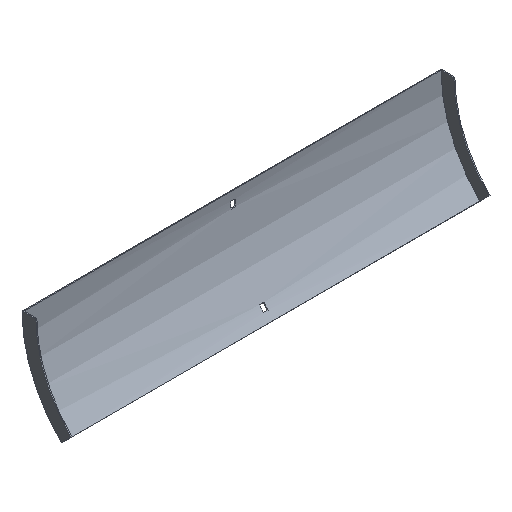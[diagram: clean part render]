
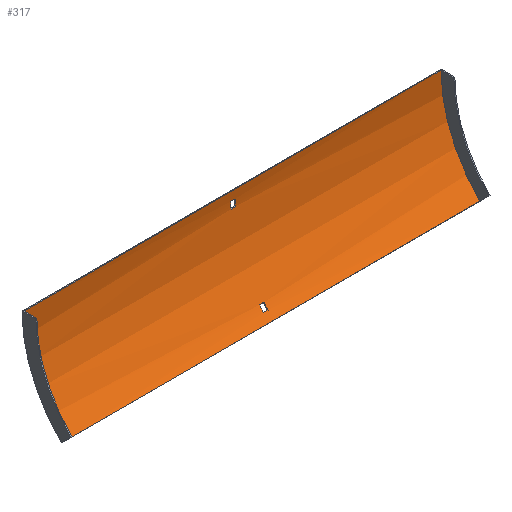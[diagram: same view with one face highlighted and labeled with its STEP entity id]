
A CAD part, isometric view. The second image highlights one B-rep face of the part: STEP entity #317.
In plain terms, the highlighted cylindrical face has radius 192.5 mm (diameter 385 mm), a partial arc.
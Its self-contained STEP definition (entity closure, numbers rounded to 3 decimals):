
#3 = CARTESIAN_POINT ( 'NONE',  ( 303.5, -43.845, -120.456 ) ) ;
#4 = ORIENTED_EDGE ( 'NONE', *, *, #168, .T. ) ;
#8 = CARTESIAN_POINT ( 'NONE',  ( 3.25, -2.649, -21. ) ) ;
#16 = EDGE_CURVE ( 'NONE', #231, #477, #505, .T. ) ;
#18 = DIRECTION ( 'NONE',  ( 1., 0., 0. ) ) ;
#24 = CARTESIAN_POINT ( 'NONE',  ( 303.5, -2.649, -21. ) ) ;
#25 = VECTOR ( 'NONE', #349, 1000. ) ;
#28 = CARTESIAN_POINT ( 'NONE',  ( -3.25, -49.661, -127.368 ) ) ;
#33 = AXIS2_PLACEMENT_3D ( 'NONE', #429, #439, #479 ) ;
#43 = EDGE_CURVE ( 'NONE', #564, #557, #187, .T. ) ;
#45 = EDGE_CURVE ( 'NONE', #332, #389, #525, .T. ) ;
#47 = DIRECTION ( 'NONE',  ( 0., 0., 1. ) ) ;
#70 = LINE ( 'NONE', #113, #25 ) ;
#75 = VECTOR ( 'NONE', #453, 1000. ) ;
#82 = AXIS2_PLACEMENT_3D ( 'NONE', #483, #533, #153 ) ;
#101 = DIRECTION ( 'NONE',  ( -1., 0., 0. ) ) ;
#108 = EDGE_CURVE ( 'NONE', #482, #175, #70, .T. ) ;
#113 = CARTESIAN_POINT ( 'NONE',  ( 303.5, -49.661, -127.368 ) ) ;
#114 = ORIENTED_EDGE ( 'NONE', *, *, #108, .T. ) ;
#128 = CARTESIAN_POINT ( 'NONE',  ( -3.25, -1.874, -12. ) ) ;
#142 = FACE_BOUND ( 'NONE', #362, .T. ) ;
#144 = CARTESIAN_POINT ( 'NONE',  ( 3.25, -194., 0. ) ) ;
#153 = DIRECTION ( 'NONE',  ( 0., 0., 1. ) ) ;
#159 = CARTESIAN_POINT ( 'NONE',  ( 302., -194., 0. ) ) ;
#166 = AXIS2_PLACEMENT_3D ( 'NONE', #421, #101, #230 ) ;
#168 = EDGE_CURVE ( 'NONE', #235, #372, #497, .T. ) ;
#171 = ORIENTED_EDGE ( 'NONE', *, *, #211, .T. ) ;
#175 = VERTEX_POINT ( 'NONE', #28 ) ;
#183 = VERTEX_POINT ( 'NONE', #256 ) ;
#186 = CARTESIAN_POINT ( 'NONE',  ( 303.5, -194., 0. ) ) ;
#187 = LINE ( 'NONE', #3, #213 ) ;
#200 = CARTESIAN_POINT ( 'NONE',  ( 302., -1.5, 0. ) ) ;
#211 = EDGE_CURVE ( 'NONE', #175, #564, #241, .T. ) ;
#213 = VECTOR ( 'NONE', #233, 1000. ) ;
#220 = AXIS2_PLACEMENT_3D ( 'NONE', #144, #330, #47 ) ;
#224 = CARTESIAN_POINT ( 'NONE',  ( 3.25, -1.874, -12. ) ) ;
#228 = ORIENTED_EDGE ( 'NONE', *, *, #514, .F. ) ;
#230 = DIRECTION ( 'NONE',  ( 0., 0., 1. ) ) ;
#231 = VERTEX_POINT ( 'NONE', #128 ) ;
#233 = DIRECTION ( 'NONE',  ( 1., 0., 0. ) ) ;
#235 = VERTEX_POINT ( 'NONE', #457 ) ;
#236 = DIRECTION ( 'NONE',  ( -1., 0., 0. ) ) ;
#241 = CIRCLE ( 'NONE', #415, 192.5 ) ;
#256 = CARTESIAN_POINT ( 'NONE',  ( 302., -57.882, -136.118 ) ) ;
#271 = ORIENTED_EDGE ( 'NONE', *, *, #43, .T. ) ;
#272 = CARTESIAN_POINT ( 'NONE',  ( -302., -1.5, 0. ) ) ;
#274 = LINE ( 'NONE', #472, #576 ) ;
#278 = VECTOR ( 'NONE', #586, 1000. ) ;
#286 = EDGE_LOOP ( 'NONE', ( #383, #485, #601, #228 ) ) ;
#298 = LINE ( 'NONE', #24, #547 ) ;
#317 = ADVANCED_FACE ( 'NONE', ( #319, #418, #142 ), #573, .F. ) ;
#319 = FACE_BOUND ( 'NONE', #286, .T. ) ;
#330 = DIRECTION ( 'NONE',  ( -1., 0., 0. ) ) ;
#331 = CIRCLE ( 'NONE', #82, 192.5 ) ;
#332 = VERTEX_POINT ( 'NONE', #8 ) ;
#343 = CARTESIAN_POINT ( 'NONE',  ( 3.25, -49.661, -127.368 ) ) ;
#348 = CARTESIAN_POINT ( 'NONE',  ( -3.25, -2.649, -21. ) ) ;
#349 = DIRECTION ( 'NONE',  ( -1., 0., 0. ) ) ;
#362 = EDGE_LOOP ( 'NONE', ( #114, #171, #271, #435 ) ) ;
#371 = DIRECTION ( 'NONE',  ( -1., 0., 0. ) ) ;
#372 = VERTEX_POINT ( 'NONE', #272 ) ;
#383 = ORIENTED_EDGE ( 'NONE', *, *, #16, .F. ) ;
#385 = CIRCLE ( 'NONE', #409, 192.5 ) ;
#387 = EDGE_CURVE ( 'NONE', #557, #482, #534, .T. ) ;
#389 = VERTEX_POINT ( 'NONE', #224 ) ;
#390 = CARTESIAN_POINT ( 'NONE',  ( 3.25, -43.845, -120.456 ) ) ;
#397 = CARTESIAN_POINT ( 'NONE',  ( -302., -57.882, -136.118 ) ) ;
#398 = DIRECTION ( 'NONE',  ( 1., 0., 0. ) ) ;
#409 = AXIS2_PLACEMENT_3D ( 'NONE', #159, #18, #452 ) ;
#412 = DIRECTION ( 'NONE',  ( 0., 0., -1. ) ) ;
#415 = AXIS2_PLACEMENT_3D ( 'NONE', #447, #398, #412 ) ;
#418 = FACE_OUTER_BOUND ( 'NONE', #471, .T. ) ;
#421 = CARTESIAN_POINT ( 'NONE',  ( -3.25, -194., 0. ) ) ;
#427 = ORIENTED_EDGE ( 'NONE', *, *, #605, .F. ) ;
#429 = CARTESIAN_POINT ( 'NONE',  ( 3.25, -194., 0. ) ) ;
#435 = ORIENTED_EDGE ( 'NONE', *, *, #387, .T. ) ;
#437 = EDGE_CURVE ( 'NONE', #389, #231, #274, .T. ) ;
#438 = AXIS2_PLACEMENT_3D ( 'NONE', #186, #371, #527 ) ;
#439 = DIRECTION ( 'NONE',  ( 1., 0., 0. ) ) ;
#443 = LINE ( 'NONE', #492, #278 ) ;
#447 = CARTESIAN_POINT ( 'NONE',  ( -3.25, -194., 0. ) ) ;
#452 = DIRECTION ( 'NONE',  ( 0., 0., 1. ) ) ;
#453 = DIRECTION ( 'NONE',  ( -1., 0., 0. ) ) ;
#457 = CARTESIAN_POINT ( 'NONE',  ( 302., -1.5, 0. ) ) ;
#471 = EDGE_LOOP ( 'NONE', ( #561, #427, #510, #4 ) ) ;
#472 = CARTESIAN_POINT ( 'NONE',  ( 303.5, -1.874, -12. ) ) ;
#477 = VERTEX_POINT ( 'NONE', #348 ) ;
#479 = DIRECTION ( 'NONE',  ( 0., 0., -1. ) ) ;
#482 = VERTEX_POINT ( 'NONE', #343 ) ;
#483 = CARTESIAN_POINT ( 'NONE',  ( -302., -194., 0. ) ) ;
#485 = ORIENTED_EDGE ( 'NONE', *, *, #437, .F. ) ;
#492 = CARTESIAN_POINT ( 'NONE',  ( 302., -57.882, -136.118 ) ) ;
#497 = LINE ( 'NONE', #200, #75 ) ;
#505 = CIRCLE ( 'NONE', #166, 192.5 ) ;
#510 = ORIENTED_EDGE ( 'NONE', *, *, #550, .T. ) ;
#514 = EDGE_CURVE ( 'NONE', #477, #332, #298, .T. ) ;
#525 = CIRCLE ( 'NONE', #33, 192.5 ) ;
#527 = DIRECTION ( 'NONE',  ( 0., 0., 1. ) ) ;
#530 = CARTESIAN_POINT ( 'NONE',  ( -3.25, -43.845, -120.456 ) ) ;
#533 = DIRECTION ( 'NONE',  ( 1., 0., 0. ) ) ;
#534 = CIRCLE ( 'NONE', #220, 192.5 ) ;
#547 = VECTOR ( 'NONE', #583, 1000. ) ;
#550 = EDGE_CURVE ( 'NONE', #183, #235, #385, .T. ) ;
#557 = VERTEX_POINT ( 'NONE', #390 ) ;
#560 = EDGE_CURVE ( 'NONE', #579, #372, #331, .T. ) ;
#561 = ORIENTED_EDGE ( 'NONE', *, *, #560, .F. ) ;
#564 = VERTEX_POINT ( 'NONE', #530 ) ;
#573 = CYLINDRICAL_SURFACE ( 'NONE', #438, 192.5 ) ;
#576 = VECTOR ( 'NONE', #236, 1000. ) ;
#579 = VERTEX_POINT ( 'NONE', #397 ) ;
#583 = DIRECTION ( 'NONE',  ( 1., 0., 0. ) ) ;
#586 = DIRECTION ( 'NONE',  ( -1., 0., 0. ) ) ;
#601 = ORIENTED_EDGE ( 'NONE', *, *, #45, .F. ) ;
#605 = EDGE_CURVE ( 'NONE', #183, #579, #443, .T. ) ;
